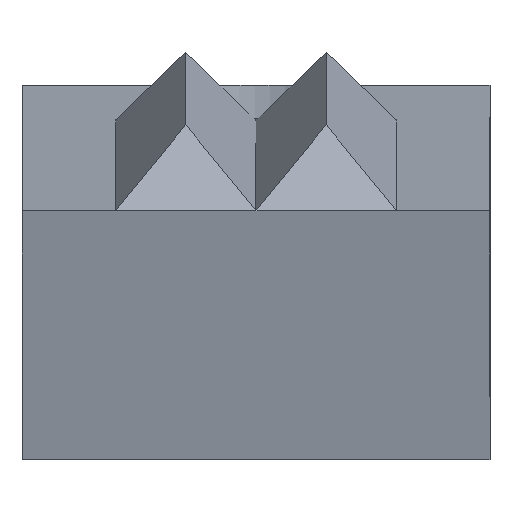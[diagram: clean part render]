
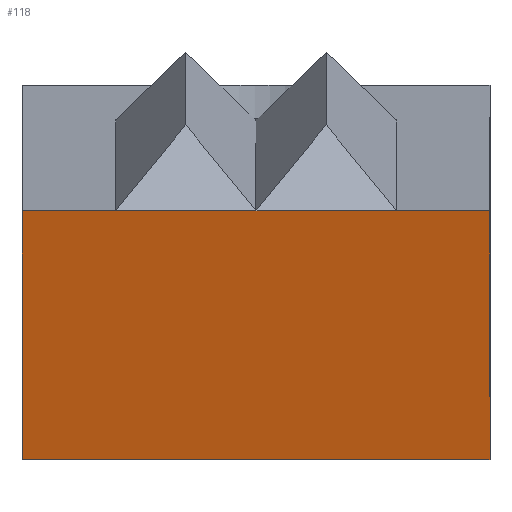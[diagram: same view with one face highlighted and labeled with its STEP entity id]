
A CAD part, left-side view. The second image highlights one B-rep face of the part: STEP entity #118.
In plain terms, the highlighted planar face has unit normal (-0.966, 0, -0.259).
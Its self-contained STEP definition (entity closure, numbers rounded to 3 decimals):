
#67=AXIS2_PLACEMENT_3D('Plane Axis2P3D',#64,#65,#66) ;
#41=CARTESIAN_POINT('Vertex',(-11.5,3.,5.321)) ;
#46=CARTESIAN_POINT('Line Origine',(-11.5,1.5,5.321)) ;
#50=CARTESIAN_POINT('Vertex',(-11.5,0.,5.321)) ;
#64=CARTESIAN_POINT('Axis2P3D Location',(-11.5,5.,5.321)) ;
#69=CARTESIAN_POINT('Line Origine',(-11.5,4.,5.321)) ;
#73=CARTESIAN_POINT('Vertex',(-11.5,5.,5.321)) ;
#76=CARTESIAN_POINT('Line Origine',(-10.787,5.,2.66)) ;
#80=CARTESIAN_POINT('Vertex',(-10.074,5.,0.)) ;
#83=CARTESIAN_POINT('Line Origine',(-10.074,0.,0.)) ;
#87=CARTESIAN_POINT('Vertex',(-10.074,-5.,0.)) ;
#90=CARTESIAN_POINT('Line Origine',(-10.787,-5.,2.66)) ;
#94=CARTESIAN_POINT('Vertex',(-11.5,-5.,5.321)) ;
#97=CARTESIAN_POINT('Line Origine',(-11.5,-4.,5.321)) ;
#101=CARTESIAN_POINT('Vertex',(-11.5,-3.,5.321)) ;
#104=CARTESIAN_POINT('Line Origine',(-11.5,-1.5,5.321)) ;
#47=DIRECTION('Vector Direction',(0.,-1.,0.)) ;
#65=DIRECTION('Axis2P3D Direction',(-0.966,-0.,-0.259)) ;
#66=DIRECTION('Axis2P3D XDirection',(0.259,0.,-0.966)) ;
#70=DIRECTION('Vector Direction',(0.,-1.,0.)) ;
#77=DIRECTION('Vector Direction',(0.259,0.,-0.966)) ;
#84=DIRECTION('Vector Direction',(0.,-1.,0.)) ;
#91=DIRECTION('Vector Direction',(0.259,0.,-0.966)) ;
#98=DIRECTION('Vector Direction',(0.,-1.,0.)) ;
#105=DIRECTION('Vector Direction',(0.,-1.,0.)) ;
#48=VECTOR('Line Direction',#47,1.) ;
#71=VECTOR('Line Direction',#70,1.) ;
#78=VECTOR('Line Direction',#77,1.) ;
#85=VECTOR('Line Direction',#84,1.) ;
#92=VECTOR('Line Direction',#91,1.) ;
#99=VECTOR('Line Direction',#98,1.) ;
#106=VECTOR('Line Direction',#105,1.) ;
#110=ORIENTED_EDGE('',*,*,#52,.F.) ;
#111=ORIENTED_EDGE('',*,*,#75,.F.) ;
#112=ORIENTED_EDGE('',*,*,#82,.T.) ;
#113=ORIENTED_EDGE('',*,*,#89,.T.) ;
#114=ORIENTED_EDGE('',*,*,#96,.F.) ;
#115=ORIENTED_EDGE('',*,*,#103,.F.) ;
#116=ORIENTED_EDGE('',*,*,#108,.F.) ;
#118=ADVANCED_FACE('PartBody',(#117),#68,.T.) ;
#52=EDGE_CURVE('',#42,#51,#49,.T.) ;
#75=EDGE_CURVE('',#74,#42,#72,.T.) ;
#82=EDGE_CURVE('',#74,#81,#79,.T.) ;
#89=EDGE_CURVE('',#81,#88,#86,.T.) ;
#96=EDGE_CURVE('',#95,#88,#93,.T.) ;
#103=EDGE_CURVE('',#102,#95,#100,.T.) ;
#108=EDGE_CURVE('',#51,#102,#107,.T.) ;
#109=EDGE_LOOP('',(#110,#111,#112,#113,#114,#115,#116)) ;
#117=FACE_OUTER_BOUND('',#109,.T.) ;
#49=LINE('Line',#46,#48) ;
#72=LINE('Line',#69,#71) ;
#79=LINE('Line',#76,#78) ;
#86=LINE('Line',#83,#85) ;
#93=LINE('Line',#90,#92) ;
#100=LINE('Line',#97,#99) ;
#107=LINE('Line',#104,#106) ;
#68=PLANE('Plane',#67) ;
#42=VERTEX_POINT('',#41) ;
#51=VERTEX_POINT('',#50) ;
#74=VERTEX_POINT('',#73) ;
#81=VERTEX_POINT('',#80) ;
#88=VERTEX_POINT('',#87) ;
#95=VERTEX_POINT('',#94) ;
#102=VERTEX_POINT('',#101) ;
